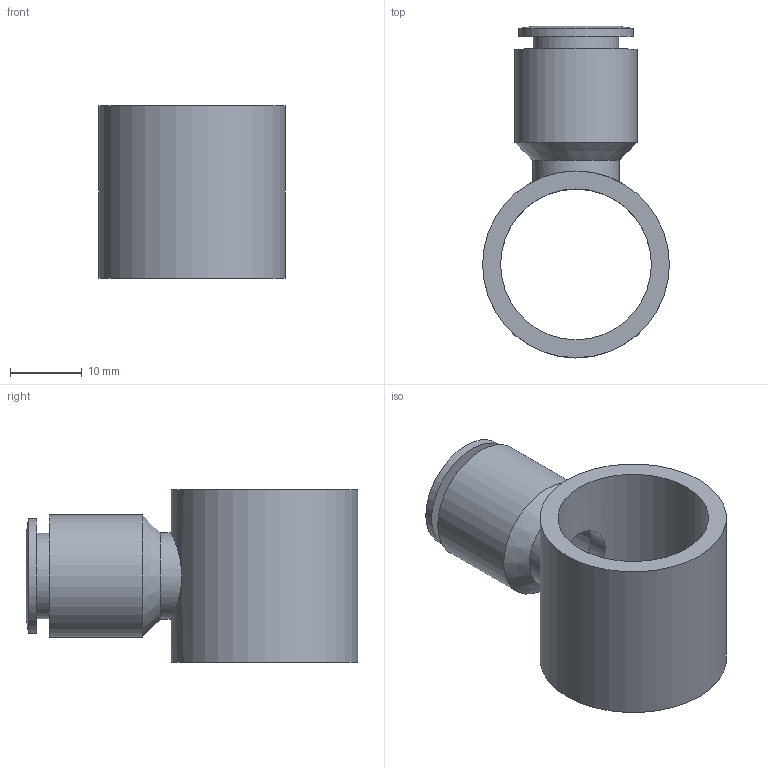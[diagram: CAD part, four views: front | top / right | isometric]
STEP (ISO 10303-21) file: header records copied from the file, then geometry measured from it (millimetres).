
FILE_DESCRIPTION((''),'2;1');
FILE_NAME('C:\Documents and Settings\rivolro1\Documenti\copia di Raccordi\PLASTICA\T13XXXX\T131012.stp','2007-10-30T17:37:35',('Rivolro1'),(''),'Autodesk Inventor 2008','Autodesk Inventor 2008','');
FILE_SCHEMA(('AUTOMOTIVE_DESIGN { 1 0 10303 214 1 1 1 1 }'));
Length unit declared in the file: millimetre
Products named in the file (1): T131012
Bounding box: 26 x 46.2 x 24 mm (x, y, z)
Volume: 6670 mm3; surface area: 5881.4 mm2
Topology: 1 solids, 1 shells, 16 faces, 27 edges, 17 vertices
Faces by surface type: cylinder 7, plane 5, bspline 2, cone 2
Full cylindrical faces by diameter (mm): 8.3 x1, 11.9 x1, 12 x1, 16 x1, 17 x1, 21 x1, 26 x1
Entity records: 535 total; most frequent: CARTESIAN_POINT 215, DIRECTION 60, ORIENTED_EDGE 34, EDGE_LOOP 34, AXIS2_PLACEMENT_3D 30, FACE_BOUND 18, VERTEX_POINT 17, EDGE_CURVE 17
